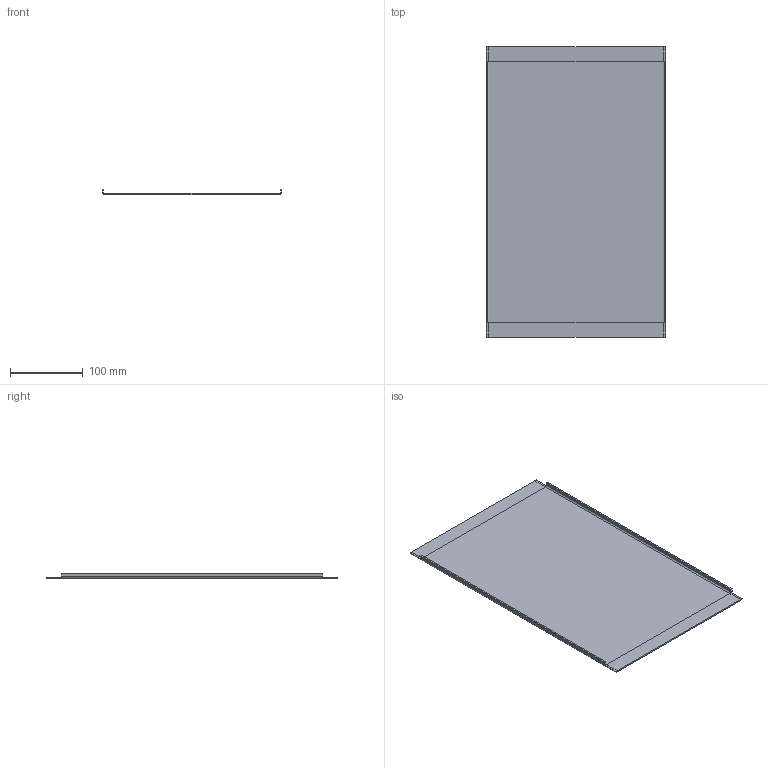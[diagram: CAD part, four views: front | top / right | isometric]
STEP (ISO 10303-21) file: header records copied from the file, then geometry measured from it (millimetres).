
FILE_DESCRIPTION(('FreeCAD Model'),'2;1');
FILE_NAME('/home/gizmo/Desktop/SE EL34/mobile/coperchio.stp', '2014-09-29T17:12:09',('FreeCAD'),('FreeCAD'), 'Open CASCADE STEP processor 6.7','FreeCAD','Unknown');
FILE_SCHEMA(('AUTOMOTIVE_DESIGN_CC2 { 1 2 10303 214 -1 1 5 4 }'));
Length unit declared in the file: millimetre
Products named in the file (1): Coperchio
Bounding box: 248 x 400 x 8 mm (x, y, z)
Volume: 204938.9 mm3; surface area: 207627.8 mm2
Topology: 1 solids, 1 shells, 24 faces, 66 edges, 44 vertices
Faces by surface type: plane 20, cylinder 4
Entity records: 1661 total; most frequent: CARTESIAN_POINT 359, DIRECTION 232, LINE 146, VECTOR 146, ORIENTED_EDGE 132, PCURVE 132, DEFINITIONAL_REPRESENTATION 132, EDGE_CURVE 66
